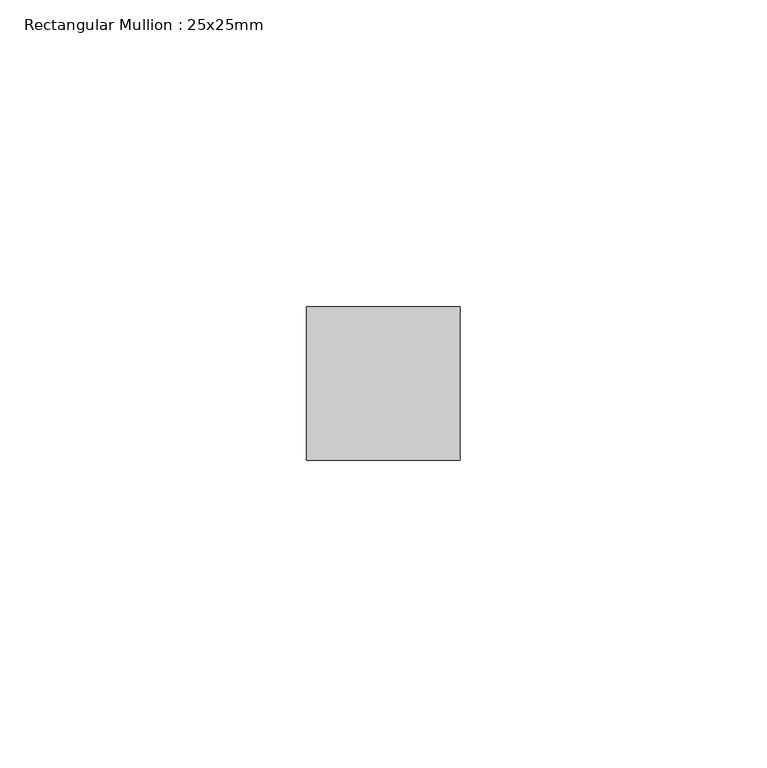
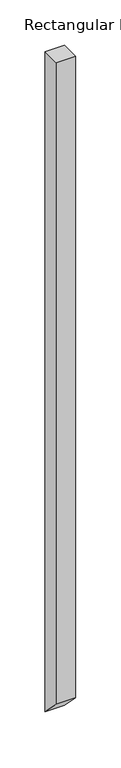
"""IFC4 building model written with IfcOpenShell, lengths in millimetres: member geometry, Rectangular Mullion : 25x25mm."""

from ifc_helpers import new_model, si_unit, frame, origin, place, context, project, spatial, polyline, outline, extrude, source, transform, mapped, element, save


def rectangular_mullion_25x25mm_8def5214(model_context):
    return source(origin(), model_context, "Body", "SweptSolid", [
        extrude(outline(polyline([(-0.5, 0.0), (24.5, 0.0), (24.5, -893.2836067), (-0.5, -868.2836067), (-0.5, 0.0)])), frame((-25.0, 0.0, 0.0), z_axis=(1.0, 0.0, 0.0), x_axis=(0.0, 1.0, 0.0)), (0.0, 0.0, 1.0), 25.0),
    ])


if __name__ == "__main__":
    model = new_model("IFC4")
    model_context = context("Model", 3, world=origin())
    ifc_project = project(units=[si_unit("LENGTHUNIT", "METRE", prefix="MILLI")], contexts=[model_context])
    site = spatial("IfcSite", under=ifc_project)
    building = spatial("IfcBuilding", under=site)
    placement = place(None, origin())
    rectangular_mullion_25x25mm_shape = rectangular_mullion_25x25mm_8def5214(model_context)
    element("IfcMember", 1, ObjectType="Rectangular Mullion : 25x25mm", at=placement, inside=building, context=model_context, shape_type="MappedRepresentation", body=[
        mapped(rectangular_mullion_25x25mm_shape, transform((0.0, 0.0, 0.0), x_axis=(1.0, 0.0, 0.0), y_axis=(0.0, 1.0, 0.0), z_axis=(0.0, 0.0, 1.0))),
    ])
    save(model, "model.ifc")
